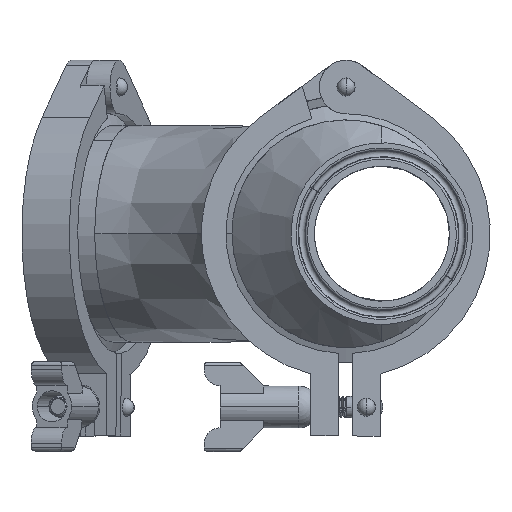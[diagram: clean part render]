
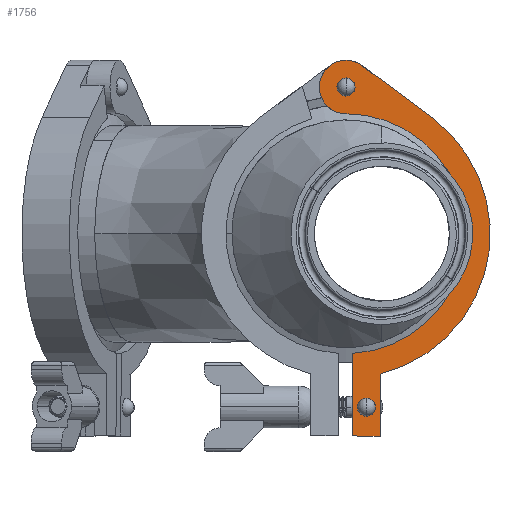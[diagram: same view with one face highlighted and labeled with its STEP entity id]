
A CAD part, left-side view. The second image highlights one B-rep face of the part: STEP entity #1756.
In plain terms, the highlighted planar face has unit normal (-1, 0, 0).
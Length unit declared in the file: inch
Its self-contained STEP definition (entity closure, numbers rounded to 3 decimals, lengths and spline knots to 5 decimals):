
#742 = VECTOR ( 'NONE', #3496, 39.37008 ) ;
#1349 = CARTESIAN_POINT ( 'NONE',  ( 1.40522, 4.27902, 5.16663 ) ) ;
#1572 = EDGE_CURVE ( 'NONE', #21398, #13953, #18499, .T. ) ;
#1725 = EDGE_CURVE ( 'NONE', #5645, #19221, #27087, .T. ) ;
#1756 = ADVANCED_FACE ( 'NONE', ( #22786, #9595, #26413 ), #2867, .T. ) ;
#1949 = VECTOR ( 'NONE', #20062, 39.37008 ) ;
#2394 = AXIS2_PLACEMENT_3D ( 'NONE', #6279, #21021, #8413 ) ;
#2519 = DIRECTION ( 'NONE',  ( 1., 0., 0. ) ) ;
#2663 = ORIENTED_EDGE ( 'NONE', *, *, #18082, .T. ) ;
#2867 = PLANE ( 'NONE',  #27293 ) ;
#3194 = CARTESIAN_POINT ( 'NONE',  ( 1.40522, 4.65855, 5.45182 ) ) ;
#3255 = AXIS2_PLACEMENT_3D ( 'NONE', #10821, #25576, #12915 ) ;
#3340 = CARTESIAN_POINT ( 'NONE',  ( 1.40522, 4.75579, 7.10897 ) ) ;
#3496 = DIRECTION ( 'NONE',  ( 0., 1., 0.002 ) ) ;
#3886 = CIRCLE ( 'NONE', #23397, 2. ) ;
#4152 = EDGE_LOOP ( 'NONE', ( #13406, #14642 ) ) ;
#4989 = DIRECTION ( 'NONE',  ( 0., -0.002, 1. ) ) ;
#5014 = EDGE_CURVE ( 'NONE', #7784, #11838, #6909, .T. ) ;
#5324 = CARTESIAN_POINT ( 'NONE',  ( 1.40522, 4.27897, 5.19903 ) ) ;
#5436 = DIRECTION ( 'NONE',  ( 0., -0.002, 1. ) ) ;
#5645 = VERTEX_POINT ( 'NONE', #3194 ) ;
#6097 = CIRCLE ( 'NONE', #23024, 0.0825 ) ;
#6121 = ORIENTED_EDGE ( 'NONE', *, *, #13499, .F. ) ;
#6279 = CARTESIAN_POINT ( 'NONE',  ( 1.40522, 4.46978, 4.70849 ) ) ;
#6305 = AXIS2_PLACEMENT_3D ( 'NONE', #11914, #26682, #14013 ) ;
#6343 = LINE ( 'NONE', #24511, #742 ) ;
#6705 = ORIENTED_EDGE ( 'NONE', *, *, #5014, .T. ) ;
#6909 = LINE ( 'NONE', #5324, #1949 ) ;
#7050 = EDGE_CURVE ( 'NONE', #19430, #20123, #6097, .T. ) ;
#7283 = CARTESIAN_POINT ( 'NONE',  ( 1.40522, 4.46978, 4.70849 ) ) ;
#7784 = VERTEX_POINT ( 'NONE', #7944 ) ;
#7944 = CARTESIAN_POINT ( 'NONE',  ( 1.40522, 4.28045, 4.30818 ) ) ;
#8372 = CARTESIAN_POINT ( 'NONE',  ( 1.40522, 3.56103, 8.71289 ) ) ;
#8413 = DIRECTION ( 'NONE',  ( 0., -0.002, 1. ) ) ;
#8498 = CARTESIAN_POINT ( 'NONE',  ( 1.40522, 4.46992, 4.62849 ) ) ;
#9264 = CARTESIAN_POINT ( 'NONE',  ( 1.40522, 4.53138, 9.43569 ) ) ;
#9402 = DIRECTION ( 'NONE',  ( 0., -0.002, 1. ) ) ;
#9440 = CARTESIAN_POINT ( 'NONE',  ( 1.40522, 4.7524, 9.13897 ) ) ;
#9501 = CARTESIAN_POINT ( 'NONE',  ( 1.40522, 4.53138, 9.43569 ) ) ;
#9595 = FACE_OUTER_BOUND ( 'NONE', #25606, .T. ) ;
#9753 = CARTESIAN_POINT ( 'NONE',  ( 1.40522, 4.46965, 4.78849 ) ) ;
#10058 = EDGE_CURVE ( 'NONE', #7784, #19221, #6343, .T. ) ;
#10601 = CIRCLE ( 'NONE', #17927, 0.08 ) ;
#10821 = CARTESIAN_POINT ( 'NONE',  ( 1.40522, 4.7524, 9.13897 ) ) ;
#11149 = ORIENTED_EDGE ( 'NONE', *, *, #7050, .T. ) ;
#11558 = DIRECTION ( 'NONE',  ( 0., 0.002, -1. ) ) ;
#11838 = VERTEX_POINT ( 'NONE', #1349 ) ;
#11857 = VERTEX_POINT ( 'NONE', #9753 ) ;
#11914 = CARTESIAN_POINT ( 'NONE',  ( 1.40522, 4.75579, 7.10897 ) ) ;
#12056 = ORIENTED_EDGE ( 'NONE', *, *, #15944, .T. ) ;
#12107 = VERTEX_POINT ( 'NONE', #8372 ) ;
#12526 = CARTESIAN_POINT ( 'NONE',  ( 1.40522, 4.75302, 8.76897 ) ) ;
#12623 = EDGE_CURVE ( 'NONE', #5645, #21398, #15525, .T. ) ;
#12915 = DIRECTION ( 'NONE',  ( 0., 0.002, -1. ) ) ;
#13348 = CARTESIAN_POINT ( 'NONE',  ( 1.40522, 4.75912, 5.10897 ) ) ;
#13406 = ORIENTED_EDGE ( 'NONE', *, *, #13454, .F. ) ;
#13454 = EDGE_CURVE ( 'NONE', #15200, #11857, #10601, .T. ) ;
#13499 = EDGE_CURVE ( 'NONE', #13953, #12107, #26733, .T. ) ;
#13953 = VERTEX_POINT ( 'NONE', #9264 ) ;
#14013 = DIRECTION ( 'NONE',  ( 0., -0.002, 1. ) ) ;
#14249 = ORIENTED_EDGE ( 'NONE', *, *, #1725, .T. ) ;
#14518 = ORIENTED_EDGE ( 'NONE', *, *, #10058, .F. ) ;
#14642 = ORIENTED_EDGE ( 'NONE', *, *, #19377, .F. ) ;
#14805 = CARTESIAN_POINT ( 'NONE',  ( 1.40522, 4.75227, 9.22147 ) ) ;
#15131 = CARTESIAN_POINT ( 'NONE',  ( 1.40522, 4.7524, 9.13897 ) ) ;
#15200 = VERTEX_POINT ( 'NONE', #8498 ) ;
#15379 = DIRECTION ( 'NONE',  ( 0., 0.002, -1. ) ) ;
#15525 = CIRCLE ( 'NONE', #6305, 1.66 ) ;
#15944 = EDGE_CURVE ( 'NONE', #20123, #19430, #16068, .T. ) ;
#16068 = CIRCLE ( 'NONE', #22806, 0.0825 ) ;
#17241 = DIRECTION ( 'NONE',  ( 0., 0.002, -1. ) ) ;
#17927 = AXIS2_PLACEMENT_3D ( 'NONE', #7283, #22017, #9402 ) ;
#18043 = DIRECTION ( 'NONE',  ( -1., 0., 0. ) ) ;
#18082 = EDGE_CURVE ( 'NONE', #11838, #12107, #3886, .T. ) ;
#18499 = CIRCLE ( 'NONE', #3255, 0.37 ) ;
#19221 = VERTEX_POINT ( 'NONE', #22205 ) ;
#19377 = EDGE_CURVE ( 'NONE', #11857, #15200, #20995, .T. ) ;
#19430 = VERTEX_POINT ( 'NONE', #25390 ) ;
#19628 = CARTESIAN_POINT ( 'NONE',  ( 1.40522, 4.65579, 7.1088 ) ) ;
#20062 = DIRECTION ( 'NONE',  ( 0., -0.002, 1. ) ) ;
#20123 = VERTEX_POINT ( 'NONE', #14805 ) ;
#20306 = ORIENTED_EDGE ( 'NONE', *, *, #12623, .F. ) ;
#20634 = EDGE_LOOP ( 'NONE', ( #11149, #12056 ) ) ;
#20995 = CIRCLE ( 'NONE', #2394, 0.08 ) ;
#21021 = DIRECTION ( 'NONE',  ( -1., 0., 0. ) ) ;
#21127 = VECTOR ( 'NONE', #22106, 39.37008 ) ;
#21398 = VERTEX_POINT ( 'NONE', #12526 ) ;
#21478 = VECTOR ( 'NONE', #15379, 39.37008 ) ;
#22017 = DIRECTION ( 'NONE',  ( -1., 0., 0. ) ) ;
#22106 = DIRECTION ( 'NONE',  ( 0., -0.802, -0.597 ) ) ;
#22205 = CARTESIAN_POINT ( 'NONE',  ( 1.40522, 4.66045, 4.30881 ) ) ;
#22786 = FACE_BOUND ( 'NONE', #4152, .T. ) ;
#22806 = AXIS2_PLACEMENT_3D ( 'NONE', #15131, #2519, #17241 ) ;
#23024 = AXIS2_PLACEMENT_3D ( 'NONE', #9440, #24185, #11558 ) ;
#23397 = AXIS2_PLACEMENT_3D ( 'NONE', #3340, #18043, #5436 ) ;
#23877 = DIRECTION ( 'NONE',  ( -1., 0., 0. ) ) ;
#24185 = DIRECTION ( 'NONE',  ( 1., 0., 0. ) ) ;
#24511 = CARTESIAN_POINT ( 'NONE',  ( 1.40522, 4.28045, 4.30818 ) ) ;
#25299 = ORIENTED_EDGE ( 'NONE', *, *, #1572, .F. ) ;
#25390 = CARTESIAN_POINT ( 'NONE',  ( 1.40522, 4.75254, 9.05647 ) ) ;
#25576 = DIRECTION ( 'NONE',  ( 1., 0., 0. ) ) ;
#25606 = EDGE_LOOP ( 'NONE', ( #2663, #6121, #25299, #20306, #14249, #14518, #6705 ) ) ;
#26413 = FACE_BOUND ( 'NONE', #20634, .T. ) ;
#26682 = DIRECTION ( 'NONE',  ( -1., 0., 0. ) ) ;
#26733 = LINE ( 'NONE', #9501, #21127 ) ;
#27087 = LINE ( 'NONE', #19628, #21478 ) ;
#27293 = AXIS2_PLACEMENT_3D ( 'NONE', #13348, #23877, #4989 ) ;
